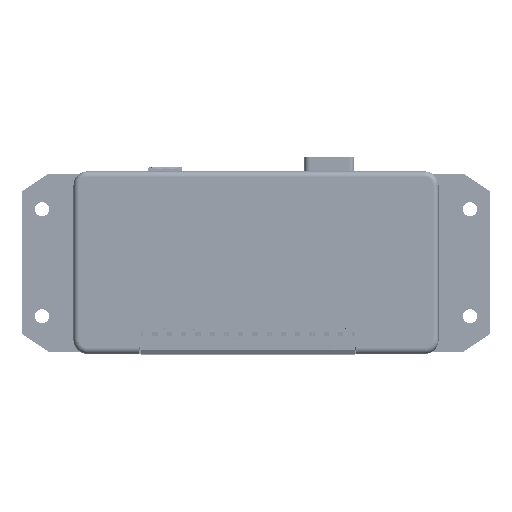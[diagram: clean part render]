
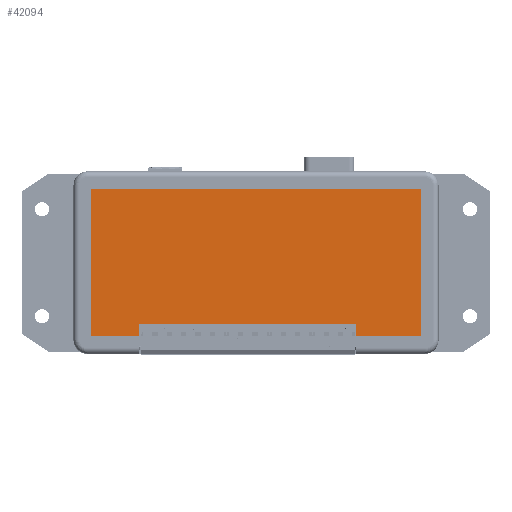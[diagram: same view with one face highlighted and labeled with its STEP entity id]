
A CAD part, top view. The second image highlights one B-rep face of the part: STEP entity #42094.
In plain terms, the highlighted planar face has unit normal (0, 0, 1) as drawn and (0, 0, -1) by its records, which use the part's own axes.
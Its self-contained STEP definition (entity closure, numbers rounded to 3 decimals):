
#605 = ORIENTED_EDGE ( 'NONE', *, *, #129028, .T. ) ;
#926 = ORIENTED_EDGE ( 'NONE', *, *, #99280, .T. ) ;
#984 = LINE ( 'NONE', #40954, #23517 ) ;
#2995 = CARTESIAN_POINT ( 'NONE',  ( 35.5, 26.125, 1. ) ) ;
#5948 = DIRECTION ( 'NONE',  ( 1., 0., 0. ) ) ;
#11506 = DIRECTION ( 'NONE',  ( 1., 0., 0. ) ) ;
#12568 = VECTOR ( 'NONE', #11506, 1000. ) ;
#13441 = VERTEX_POINT ( 'NONE', #105651 ) ;
#14852 = CARTESIAN_POINT ( 'NONE',  ( 0., 0., 1. ) ) ;
#15974 = ORIENTED_EDGE ( 'NONE', *, *, #132193, .T. ) ;
#17031 = EDGE_CURVE ( 'NONE', #133561, #66813, #97652, .T. ) ;
#22635 = CARTESIAN_POINT ( 'NONE',  ( 0., 22., 1. ) ) ;
#23517 = VECTOR ( 'NONE', #95731, 1000. ) ;
#24804 = AXIS2_PLACEMENT_3D ( 'NONE', #14852, #124883, #37150 ) ;
#24962 = EDGE_CURVE ( 'NONE', #92496, #104336, #984, .T. ) ;
#29201 = DIRECTION ( 'NONE',  ( 0., 1., 0. ) ) ;
#29680 = CARTESIAN_POINT ( 'NONE',  ( -58.625, -26.125, 1. ) ) ;
#35381 = ORIENTED_EDGE ( 'NONE', *, *, #17031, .T. ) ;
#37150 = DIRECTION ( 'NONE',  ( 1., 0., 0. ) ) ;
#37937 = CARTESIAN_POINT ( 'NONE',  ( -58.625, 26.125, 1. ) ) ;
#38125 = VERTEX_POINT ( 'NONE', #79140 ) ;
#40954 = CARTESIAN_POINT ( 'NONE',  ( 58.625, 26.125, 1. ) ) ;
#42074 = LINE ( 'NONE', #84478, #127001 ) ;
#42094 = ADVANCED_FACE ( 'NONE', ( #137336 ), #103597, .F. ) ;
#42144 = VECTOR ( 'NONE', #5948, 1000. ) ;
#53846 = LINE ( 'NONE', #87168, #138732 ) ;
#55187 = VECTOR ( 'NONE', #89451, 1000. ) ;
#55443 = EDGE_CURVE ( 'NONE', #62755, #85150, #53846, .T. ) ;
#62623 = DIRECTION ( 'NONE',  ( -1., 0., 0. ) ) ;
#62755 = VERTEX_POINT ( 'NONE', #83915 ) ;
#65858 = CARTESIAN_POINT ( 'NONE',  ( -58.625, 26.125, 1. ) ) ;
#66148 = CARTESIAN_POINT ( 'NONE',  ( -41.5, 26.125, 1. ) ) ;
#66813 = VERTEX_POINT ( 'NONE', #66148 ) ;
#68028 = EDGE_CURVE ( 'NONE', #13441, #62755, #71534, .T. ) ;
#70070 = LINE ( 'NONE', #29680, #132489 ) ;
#71428 = ORIENTED_EDGE ( 'NONE', *, *, #68028, .T. ) ;
#71534 = LINE ( 'NONE', #22635, #12568 ) ;
#73779 = DIRECTION ( 'NONE',  ( 1., 0., 0. ) ) ;
#76193 = EDGE_CURVE ( 'NONE', #38125, #133561, #125934, .T. ) ;
#78369 = CARTESIAN_POINT ( 'NONE',  ( -41.5, 0., 1. ) ) ;
#79140 = CARTESIAN_POINT ( 'NONE',  ( -58.625, -26.125, 1. ) ) ;
#83837 = ORIENTED_EDGE ( 'NONE', *, *, #55443, .T. ) ;
#83915 = CARTESIAN_POINT ( 'NONE',  ( 35.5, 22., 1. ) ) ;
#84478 = CARTESIAN_POINT ( 'NONE',  ( -58.625, 26.125, 1. ) ) ;
#84868 = CARTESIAN_POINT ( 'NONE',  ( 58.625, -26.125, 1. ) ) ;
#85150 = VERTEX_POINT ( 'NONE', #2995 ) ;
#87168 = CARTESIAN_POINT ( 'NONE',  ( 35.5, 0., 1. ) ) ;
#87762 = ORIENTED_EDGE ( 'NONE', *, *, #24962, .T. ) ;
#89451 = DIRECTION ( 'NONE',  ( 0., -1., 0. ) ) ;
#92496 = VERTEX_POINT ( 'NONE', #130584 ) ;
#92999 = VECTOR ( 'NONE', #29201, 1000. ) ;
#95731 = DIRECTION ( 'NONE',  ( 0., -1., 0. ) ) ;
#97652 = LINE ( 'NONE', #37937, #42144 ) ;
#99280 = EDGE_CURVE ( 'NONE', #85150, #92496, #42074, .T. ) ;
#103001 = EDGE_LOOP ( 'NONE', ( #35381, #605, #71428, #83837, #926, #87762, #15974, #112963 ) ) ;
#103597 = PLANE ( 'NONE',  #24804 ) ;
#104336 = VERTEX_POINT ( 'NONE', #84868 ) ;
#105651 = CARTESIAN_POINT ( 'NONE',  ( -41.5, 22., 1. ) ) ;
#106811 = CARTESIAN_POINT ( 'NONE',  ( -58.625, 26.125, 1. ) ) ;
#112963 = ORIENTED_EDGE ( 'NONE', *, *, #76193, .T. ) ;
#121018 = DIRECTION ( 'NONE',  ( 0., 1., 0. ) ) ;
#124883 = DIRECTION ( 'NONE',  ( 0., 0., 1. ) ) ;
#125934 = LINE ( 'NONE', #106811, #92999 ) ;
#127001 = VECTOR ( 'NONE', #73779, 1000. ) ;
#129028 = EDGE_CURVE ( 'NONE', #66813, #13441, #140096, .T. ) ;
#130584 = CARTESIAN_POINT ( 'NONE',  ( 58.625, 26.125, 1. ) ) ;
#132193 = EDGE_CURVE ( 'NONE', #104336, #38125, #70070, .T. ) ;
#132489 = VECTOR ( 'NONE', #62623, 1000. ) ;
#133561 = VERTEX_POINT ( 'NONE', #65858 ) ;
#137336 = FACE_OUTER_BOUND ( 'NONE', #103001, .T. ) ;
#138732 = VECTOR ( 'NONE', #121018, 1000. ) ;
#140096 = LINE ( 'NONE', #78369, #55187 ) ;
